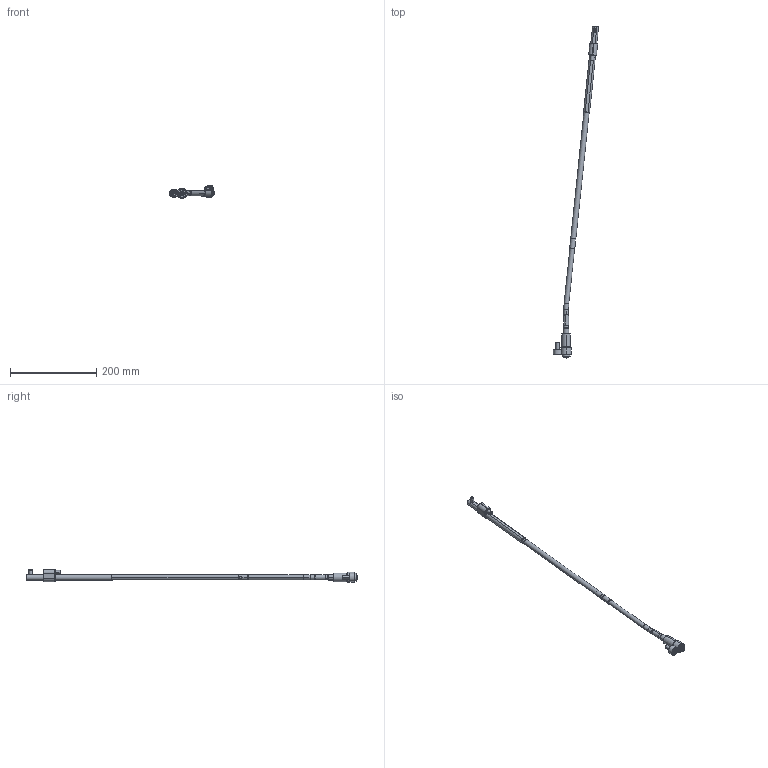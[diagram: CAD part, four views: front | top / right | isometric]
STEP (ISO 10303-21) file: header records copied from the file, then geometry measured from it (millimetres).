
FILE_DESCRIPTION (( 'STEP AP214' ), '1' );
FILE_NAME ('WL120125-EJE 6°.STEP', '2021-03-19T15:38:59', ( '' ), ( '' ), 'SwSTEP 2.0', 'SolidWorks 2019', '' );
FILE_SCHEMA (( 'AUTOMOTIVE_DESIGN' ));
Length unit declared in the file: millimetre
Products named in the file (17): WL120100-E; WL120100-D; WL120125-EJE 6°; 3IMAN5X3-150_con sellador; 9DR2808-TOR; Web-WL12-F00.SLDPRT; Web-WL12-XX_ON-WL120125-6; Web-WL12-F01; WL120100-B1; Web-WL12-A3; 1DIN912820_DIN 912 M8 x 20 --- 20C; Web-WL12-A8; 1DIN912645_DIN 912 M6 x 45 --- 45C; WL120100-B; Web-WL12-A2; Web-WL12-A1; 8WL12EJEP
Assembly tree (16 placements, depth 3):
  WL120125-EJE 6°
    Web-WL12-A8
    Web-WL12-XX_ON-WL120125-6
    Web-WL12-A3
    Web-WL12-A2
    Web-WL12-A1
    Web-WL12-F00.SLDPRT
      Web-WL12-F01
      1DIN912820_DIN 912 M8 x 20 --- 20C
      1DIN912645_DIN 912 M6 x 45 --- 45C
    WL120100-D
    8WL12EJEP
    WL120100-E
    9DR2808-TOR
    WL120100-B
      WL120100-B1
      3IMAN5X3-150_con sellador
Bounding box: 104.64 x 770.13 x 29.9 mm (x, y, z)
Volume: 116548 mm3; surface area: 51029.8 mm2
Topology: 15 solids, 15 shells, 432 faces, 906 edges, 525 vertices
Faces by surface type: plane 139, cylinder 123, cone 120, torus 50
Entity records: 13661 total; most frequent: DIRECTION 2240, CARTESIAN_POINT 2104, ORIENTED_EDGE 1788, AXIS2_PLACEMENT_3D 929, EDGE_CURVE 894, VERTEX_POINT 525, EDGE_LOOP 477, CIRCLE 476
